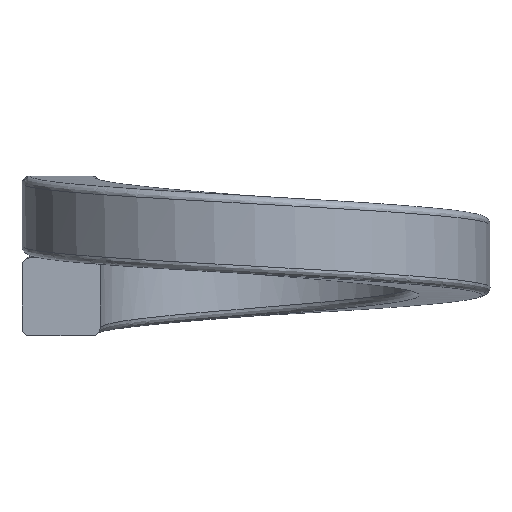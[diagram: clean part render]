
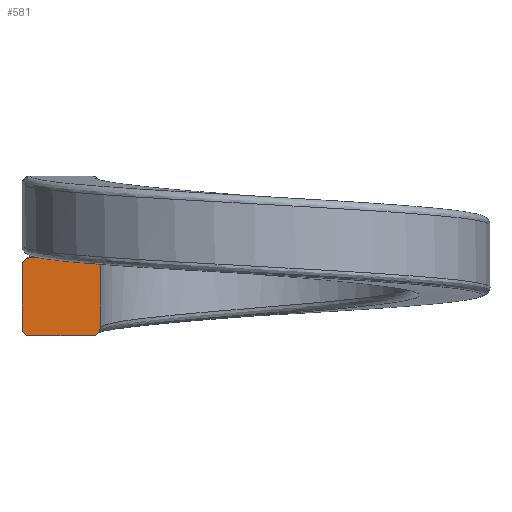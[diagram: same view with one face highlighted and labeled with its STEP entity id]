
A CAD part, top view. The second image highlights one B-rep face of the part: STEP entity #581.
In plain terms, the highlighted planar face has unit normal (0, 0, 1).
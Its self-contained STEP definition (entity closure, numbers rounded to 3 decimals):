
#8 = CARTESIAN_POINT ( 'NONE',  ( -5., 1., 0. ) ) ;
#19 = CARTESIAN_POINT ( 'NONE',  ( -4., 0., 0. ) ) ;
#83 = CARTESIAN_POINT ( 'NONE',  ( -4., 0.852, 0. ) ) ;
#109 = EDGE_CURVE ( 'NONE', #407, #2596, #2120, .T. ) ;
#126 = VERTEX_POINT ( 'NONE', #1926 ) ;
#155 = LINE ( 'NONE', #2583, #2634 ) ;
#172 = DIRECTION ( 'NONE',  ( 1., 0., 0. ) ) ;
#287 = LINE ( 'NONE', #8, #1527 ) ;
#298 = LINE ( 'NONE', #19, #688 ) ;
#316 = EDGE_CURVE ( 'NONE', #533, #2615, #287, .T. ) ;
#339 = ORIENTED_EDGE ( 'NONE', *, *, #2303, .T. ) ;
#407 = VERTEX_POINT ( 'NONE', #1608 ) ;
#432 = CARTESIAN_POINT ( 'NONE',  ( -4.2, -1., 0. ) ) ;
#450 = DIRECTION ( 'NONE',  ( 0., 0., 1. ) ) ;
#533 = VERTEX_POINT ( 'NONE', #1283 ) ;
#537 = CARTESIAN_POINT ( 'NONE',  ( -6., 0.8, 0. ) ) ;
#577 = CARTESIAN_POINT ( 'NONE',  ( -6., -0.8, 0. ) ) ;
#581 = ADVANCED_FACE ( 'NONE', ( #1457 ), #1001, .T. ) ;
#643 = CARTESIAN_POINT ( 'NONE',  ( -4., 0.799, 0. ) ) ;
#688 = VECTOR ( 'NONE', #2449, 1000. ) ;
#725 = CARTESIAN_POINT ( 'NONE',  ( -6., 0., 0. ) ) ;
#811 = CARTESIAN_POINT ( 'NONE',  ( -6., 0.853, 0. ) ) ;
#840 = EDGE_CURVE ( 'NONE', #2615, #407, #1374, .T. ) ;
#983 = CARTESIAN_POINT ( 'NONE',  ( -4., -0.799, 0. ) ) ;
#1001 = PLANE ( 'NONE',  #1035 ) ;
#1035 = AXIS2_PLACEMENT_3D ( 'NONE', #725, #450, #172 ) ;
#1065 = CARTESIAN_POINT ( 'NONE',  ( -5.8, -1., 0. ) ) ;
#1089 = CARTESIAN_POINT ( 'NONE',  ( -5.978, 0.904, 0. ) ) ;
#1098 = CARTESIAN_POINT ( 'NONE',  ( -5.8, 1., 0. ) ) ;
#1149 = ORIENTED_EDGE ( 'NONE', *, *, #1635, .T. ) ;
#1170 = ORIENTED_EDGE ( 'NONE', *, *, #1982, .T. ) ;
#1252 = ORIENTED_EDGE ( 'NONE', *, *, #109, .T. ) ;
#1263 = CARTESIAN_POINT ( 'NONE',  ( -4., -0.852, 0. ) ) ;
#1283 = CARTESIAN_POINT ( 'NONE',  ( -4.2, 1., 0. ) ) ;
#1297 = CARTESIAN_POINT ( 'NONE',  ( -4., -0.799, 0. ) ) ;
#1317 = ORIENTED_EDGE ( 'NONE', *, *, #1618, .T. ) ;
#1342 = CARTESIAN_POINT ( 'NONE',  ( -5.853, -1., 0. ) ) ;
#1365 = B_SPLINE_CURVE_WITH_KNOTS ( 'NONE', 3,
 ( #643, #83, #2518, #2238, #1958, #1682 ),
 .UNSPECIFIED., .F., .F.,
 ( 4, 2, 4 ),
 ( 0., 0., 0. ),
 .UNSPECIFIED. ) ;
#1369 = CARTESIAN_POINT ( 'NONE',  ( -5.905, 0.978, 0. ) ) ;
#1374 = B_SPLINE_CURVE_WITH_KNOTS ( 'NONE', 3,
 ( #1921, #1643, #1369, #1089, #811, #537 ),
 .UNSPECIFIED., .F., .F.,
 ( 4, 2, 4 ),
 ( 0., 0., 0. ),
 .UNSPECIFIED. ) ;
#1457 = FACE_OUTER_BOUND ( 'NONE', #2211, .T. ) ;
#1527 = VECTOR ( 'NONE', #2438, 1000. ) ;
#1540 = CARTESIAN_POINT ( 'NONE',  ( -4.022, -0.904, 0. ) ) ;
#1565 = B_SPLINE_CURVE_WITH_KNOTS ( 'NONE', 3,
 ( #577, #2172, #1896, #1617, #1342, #1065 ),
 .UNSPECIFIED., .F., .F.,
 ( 4, 2, 4 ),
 ( 0., 0., 0. ),
 .UNSPECIFIED. ) ;
#1593 = VECTOR ( 'NONE', #2039, 1000. ) ;
#1608 = CARTESIAN_POINT ( 'NONE',  ( -6., 0.8, 0. ) ) ;
#1617 = CARTESIAN_POINT ( 'NONE',  ( -5.905, -0.978, 0. ) ) ;
#1618 = EDGE_CURVE ( 'NONE', #1867, #126, #298, .T. ) ;
#1635 = EDGE_CURVE ( 'NONE', #2596, #1916, #1565, .T. ) ;
#1643 = CARTESIAN_POINT ( 'NONE',  ( -5.853, 1., 0. ) ) ;
#1682 = CARTESIAN_POINT ( 'NONE',  ( -4.2, 1., 0. ) ) ;
#1786 = ORIENTED_EDGE ( 'NONE', *, *, #316, .T. ) ;
#1815 = CARTESIAN_POINT ( 'NONE',  ( -4.095, -0.978, 0. ) ) ;
#1867 = VERTEX_POINT ( 'NONE', #1297 ) ;
#1896 = CARTESIAN_POINT ( 'NONE',  ( -5.978, -0.904, 0. ) ) ;
#1916 = VERTEX_POINT ( 'NONE', #2369 ) ;
#1921 = CARTESIAN_POINT ( 'NONE',  ( -5.8, 1., 0. ) ) ;
#1926 = CARTESIAN_POINT ( 'NONE',  ( -4., 0.799, 0. ) ) ;
#1958 = CARTESIAN_POINT ( 'NONE',  ( -4.147, 1., 0. ) ) ;
#1982 = EDGE_CURVE ( 'NONE', #1999, #1867, #2229, .T. ) ;
#1991 = CARTESIAN_POINT ( 'NONE',  ( -6., -0.8, 0. ) ) ;
#1999 = VERTEX_POINT ( 'NONE', #432 ) ;
#2039 = DIRECTION ( 'NONE',  ( 0., -1., 0. ) ) ;
#2057 = CARTESIAN_POINT ( 'NONE',  ( -6., 0., 0. ) ) ;
#2090 = CARTESIAN_POINT ( 'NONE',  ( -4.147, -1., 0. ) ) ;
#2093 = EDGE_CURVE ( 'NONE', #1916, #1999, #155, .T. ) ;
#2120 = LINE ( 'NONE', #2057, #1593 ) ;
#2172 = CARTESIAN_POINT ( 'NONE',  ( -6., -0.852, 0. ) ) ;
#2211 = EDGE_LOOP ( 'NONE', ( #2684, #1170, #1317, #339, #1786, #2676, #1252, #1149 ) ) ;
#2229 = B_SPLINE_CURVE_WITH_KNOTS ( 'NONE', 3,
 ( #2647, #2090, #1815, #1540, #1263, #983 ),
 .UNSPECIFIED., .F., .F.,
 ( 4, 2, 4 ),
 ( 0., 0., 0. ),
 .UNSPECIFIED. ) ;
#2238 = CARTESIAN_POINT ( 'NONE',  ( -4.095, 0.978, 0. ) ) ;
#2303 = EDGE_CURVE ( 'NONE', #126, #533, #1365, .T. ) ;
#2305 = DIRECTION ( 'NONE',  ( 1., 0., 0. ) ) ;
#2369 = CARTESIAN_POINT ( 'NONE',  ( -5.8, -1., 0. ) ) ;
#2438 = DIRECTION ( 'NONE',  ( -1., 0., 0. ) ) ;
#2449 = DIRECTION ( 'NONE',  ( 0., 1., 0. ) ) ;
#2518 = CARTESIAN_POINT ( 'NONE',  ( -4.022, 0.904, 0. ) ) ;
#2583 = CARTESIAN_POINT ( 'NONE',  ( -5., -1., 0. ) ) ;
#2596 = VERTEX_POINT ( 'NONE', #1991 ) ;
#2615 = VERTEX_POINT ( 'NONE', #1098 ) ;
#2634 = VECTOR ( 'NONE', #2305, 1000. ) ;
#2647 = CARTESIAN_POINT ( 'NONE',  ( -4.2, -1., 0. ) ) ;
#2676 = ORIENTED_EDGE ( 'NONE', *, *, #840, .T. ) ;
#2684 = ORIENTED_EDGE ( 'NONE', *, *, #2093, .T. ) ;
